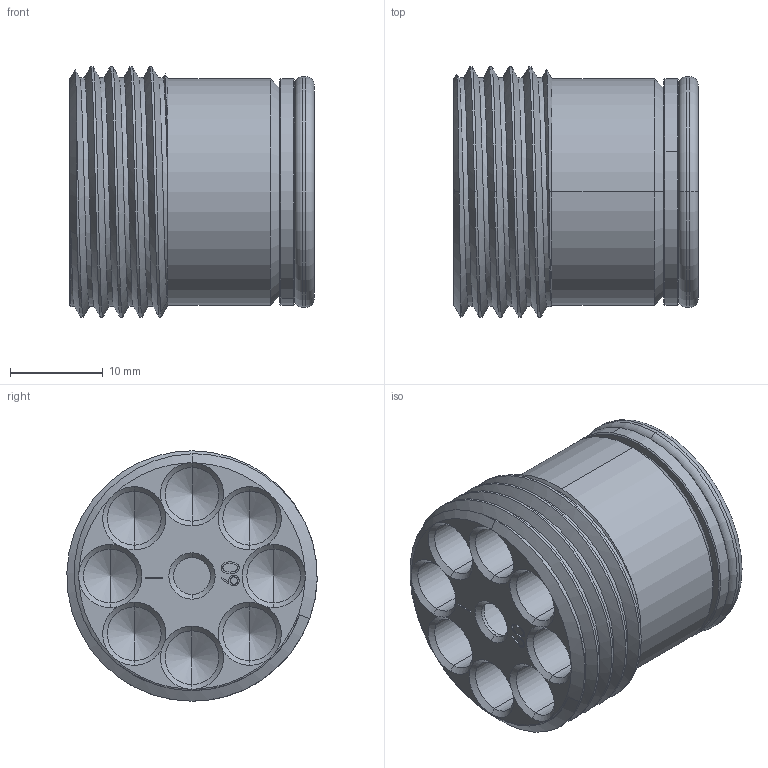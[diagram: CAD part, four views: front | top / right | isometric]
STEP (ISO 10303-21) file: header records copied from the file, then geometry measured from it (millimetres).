
FILE_DESCRIPTION (( 'STEP AP214' ), '1' );
FILE_NAME ('ICT-B-12-N60.STEP', '2026-02-12T16:48:04', ( '' ), ( '' ), 'SwSTEP 2.0', 'SolidWorks 2025', '' );
FILE_SCHEMA (( 'AUTOMOTIVE_DESIGN' ));
Length unit declared in the file: inch
Products named in the file (1): ICT-B-12-N60
Bounding box: 26.29 x 26.97 x 26.97 mm (x, y, z)
Volume: 7546 mm3; surface area: 7406.8 mm2
Topology: 1 solids, 3 shells, 189 faces, 464 edges, 276 vertices
Faces by surface type: cone 64, cylinder 50, plane 34, bspline 21, torus 18, sphere 2
Entity records: 8345 total; most frequent: CARTESIAN_POINT 4069, DIRECTION 904, ORIENTED_EDGE 886, EDGE_CURVE 443, AXIS2_PLACEMENT_3D 376, VERTEX_POINT 273, CIRCLE 207, EDGE_LOOP 206
